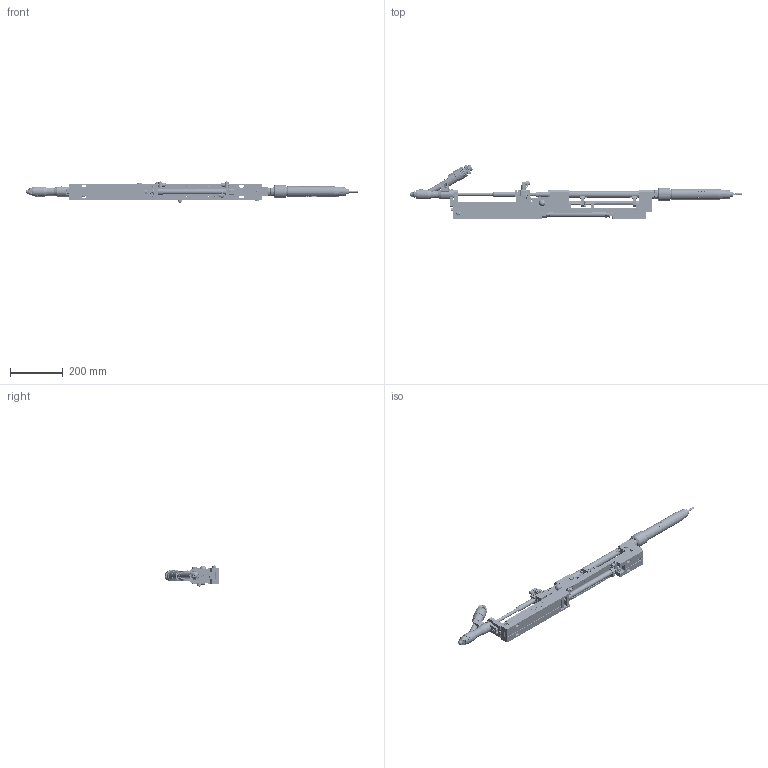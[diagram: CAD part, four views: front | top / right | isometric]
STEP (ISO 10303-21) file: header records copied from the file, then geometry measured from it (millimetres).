
FILE_DESCRIPTION(/* description */ ('© Copyright 2019 – Urheberrechtshinweis Diese CAD-Daten sind urheberrechtlich geschützt. Das Urheberrecht liegt, soweit nicht ausdrücklich anders gekennzeichnet, bei Stöger Automation GmbH. Bitte fragen Sie uns, falls Sie die CAD-Daten vervielfältigen oder'),/* implementation_level */ '2;1');
FILE_NAME(/* name */ 'H:\00_0 Arbeiten für Marketing\581150\581150.stp',/* time_stamp */ '2020-12-09T09:56:48+01:00',/* author */ ('Stöger Automation GmbH'),/* organization */ ('Stöger Automation GmbH'),/* preprocessor_version */ 'ST-DEVELOPER v17',/* originating_system */ 'Autodesk Inventor 2018',/* authorisation */ '');
FILE_SCHEMA (('CONFIG_CONTROL_DESIGN'));
Products named in the file (1): 581150
Bounding box: 1260.64 x 208.54 x 83 mm (x, y, z)
Volume: 2242942.6 mm3; surface area: 713635.4 mm2
Topology: 9 solids, 9 shells, 5025 faces, 13997 edges, 9302 vertices
Faces by surface type: plane 2563, cylinder 1250, bspline 670, cone 450, torus 82, sphere 10
Full cylindrical faces by diameter (mm): 1.3 x2, 1.5 x4, 2 x1, 2.42 x2, 2.5 x2, 3 x2, 3.02 x2, 3.1 x2, 3.232 x2, 3.242 x10, 4 x9, 4.134 x11, 4.2 x3, 4.3 x2, 4.4 x1, 4.5 x7, 4.6 x3, 4.917 x10, 5 x10, 5.1 x1, 5.3 x1, 5.5 x1, 6 x6, 6.02 x2, 6.05 x2, 6.1 x3, 6.2 x1, 6.5 x2, 6.6 x1, 6.647 x5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
Entity records: 342485 total; most frequent: CARTESIAN_POINT 213946, ORIENTED_EDGE 27858, DIRECTION 23210, EDGE_CURVE 13929, VERTEX_POINT 9298, AXIS2_PLACEMENT_3D 8295, LINE 6620, VECTOR 6620
